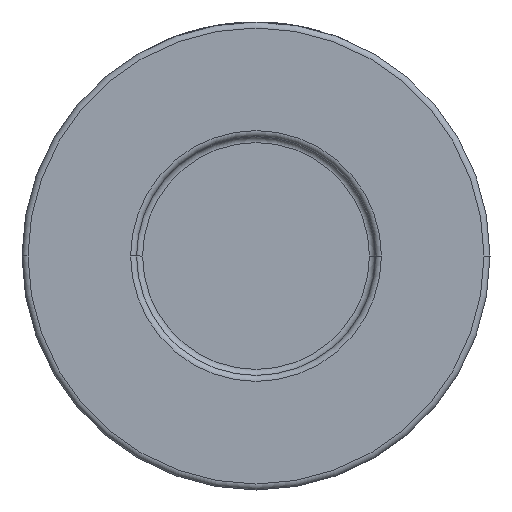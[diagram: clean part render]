
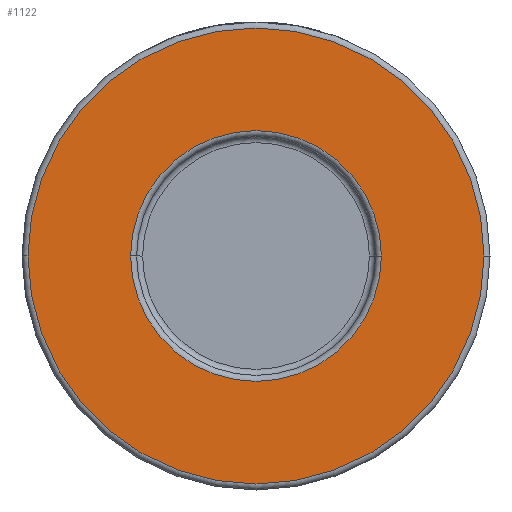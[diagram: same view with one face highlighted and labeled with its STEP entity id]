
A CAD part, front view. The second image highlights one B-rep face of the part: STEP entity #1122.
In plain terms, the highlighted planar face has unit normal (0, -1, 0).
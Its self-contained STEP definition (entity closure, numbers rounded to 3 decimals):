
#116 = DIRECTION ( 'NONE',  ( 1., 0., 0. ) ) ;
#442 = CARTESIAN_POINT ( 'NONE',  ( 0., -19., 0. ) ) ;
#533 = CIRCLE ( 'NONE', #3530, 38. ) ;
#534 = AXIS2_PLACEMENT_3D ( 'NONE', #3656, #4349, #1904 ) ;
#547 = DIRECTION ( 'NONE',  ( 0., -1., 0. ) ) ;
#667 = CARTESIAN_POINT ( 'NONE',  ( 0., -19., 0. ) ) ;
#785 = ORIENTED_EDGE ( 'NONE', *, *, #2077, .T. ) ;
#788 = EDGE_CURVE ( 'NONE', #2182, #4400, #3909, .T. ) ;
#907 = CARTESIAN_POINT ( 'NONE',  ( -38., -19., 0. ) ) ;
#910 = PLANE ( 'NONE',  #4286 ) ;
#918 = EDGE_LOOP ( 'NONE', ( #2338, #785 ) ) ;
#977 = ORIENTED_EDGE ( 'NONE', *, *, #788, .T. ) ;
#1122 = ADVANCED_FACE ( 'NONE', ( #3327, #2284 ), #910, .T. ) ;
#1135 = CARTESIAN_POINT ( 'NONE',  ( -20.9, -19., 0. ) ) ;
#1172 = CARTESIAN_POINT ( 'NONE',  ( 0., -19., 0. ) ) ;
#1609 = VERTEX_POINT ( 'NONE', #1940 ) ;
#1904 = DIRECTION ( 'NONE',  ( 1., 0., 0. ) ) ;
#1928 = AXIS2_PLACEMENT_3D ( 'NONE', #442, #2734, #3719 ) ;
#1936 = DIRECTION ( 'NONE',  ( 1., 0., 0. ) ) ;
#1940 = CARTESIAN_POINT ( 'NONE',  ( 20.9, -19., 0. ) ) ;
#2077 = EDGE_CURVE ( 'NONE', #4323, #1609, #2291, .T. ) ;
#2111 = DIRECTION ( 'NONE',  ( 1., 0., 0. ) ) ;
#2135 = CIRCLE ( 'NONE', #3680, 20.9 ) ;
#2182 = VERTEX_POINT ( 'NONE', #3405 ) ;
#2284 = FACE_OUTER_BOUND ( 'NONE', #3536, .T. ) ;
#2291 = CIRCLE ( 'NONE', #534, 20.9 ) ;
#2338 = ORIENTED_EDGE ( 'NONE', *, *, #3617, .T. ) ;
#2631 = ORIENTED_EDGE ( 'NONE', *, *, #4484, .T. ) ;
#2734 = DIRECTION ( 'NONE',  ( 0., -1., 0. ) ) ;
#2899 = DIRECTION ( 'NONE',  ( 0., 1., 0. ) ) ;
#3327 = FACE_BOUND ( 'NONE', #918, .T. ) ;
#3405 = CARTESIAN_POINT ( 'NONE',  ( 38., -19., 0. ) ) ;
#3530 = AXIS2_PLACEMENT_3D ( 'NONE', #667, #4115, #2111 ) ;
#3536 = EDGE_LOOP ( 'NONE', ( #977, #2631 ) ) ;
#3617 = EDGE_CURVE ( 'NONE', #1609, #4323, #2135, .T. ) ;
#3656 = CARTESIAN_POINT ( 'NONE',  ( 0., -19., 0. ) ) ;
#3680 = AXIS2_PLACEMENT_3D ( 'NONE', #1172, #2899, #116 ) ;
#3685 = CARTESIAN_POINT ( 'NONE',  ( 39., -19., 0. ) ) ;
#3719 = DIRECTION ( 'NONE',  ( 1., 0., 0. ) ) ;
#3909 = CIRCLE ( 'NONE', #1928, 38. ) ;
#4115 = DIRECTION ( 'NONE',  ( 0., -1., 0. ) ) ;
#4286 = AXIS2_PLACEMENT_3D ( 'NONE', #3685, #547, #1936 ) ;
#4323 = VERTEX_POINT ( 'NONE', #1135 ) ;
#4349 = DIRECTION ( 'NONE',  ( 0., 1., 0. ) ) ;
#4400 = VERTEX_POINT ( 'NONE', #907 ) ;
#4484 = EDGE_CURVE ( 'NONE', #4400, #2182, #533, .T. ) ;
